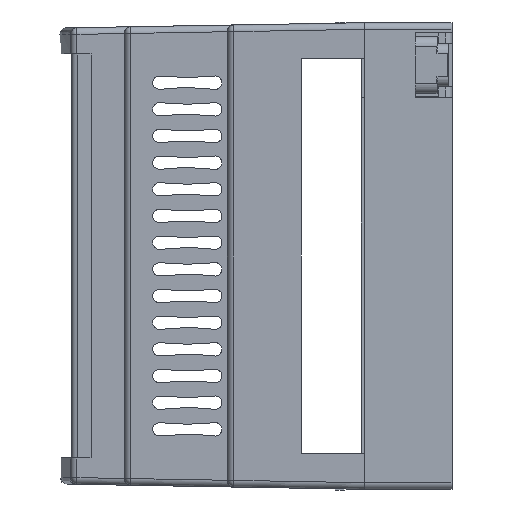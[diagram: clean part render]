
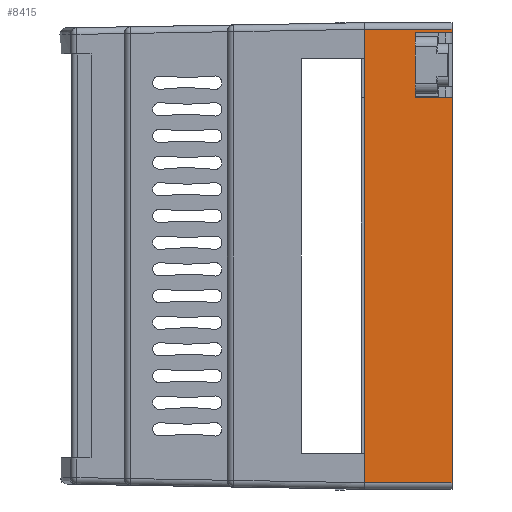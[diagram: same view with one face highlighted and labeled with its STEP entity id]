
A CAD part, left-side view. The second image highlights one B-rep face of the part: STEP entity #8415.
In plain terms, the highlighted planar face has unit normal (-1, 0, 0).
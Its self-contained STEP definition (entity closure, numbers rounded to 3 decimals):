
#989 = DIRECTION ( 'NONE',  ( 0., 0., 1. ) ) ;
#1019 = PLANE ( 'NONE',  #4628 ) ;
#1086 = LINE ( 'NONE', #10813, #18018 ) ;
#1351 = EDGE_CURVE ( 'NONE', #8377, #6896, #14726, .T. ) ;
#1622 = DIRECTION ( 'NONE',  ( 0., 0., 1. ) ) ;
#3147 = CARTESIAN_POINT ( 'NONE',  ( -45.3, -13.1, 34. ) ) ;
#3188 = EDGE_CURVE ( 'NONE', #9667, #3421, #1086, .T. ) ;
#3421 = VERTEX_POINT ( 'NONE', #13905 ) ;
#3485 = ORIENTED_EDGE ( 'NONE', *, *, #3995, .T. ) ;
#3652 = ORIENTED_EDGE ( 'NONE', *, *, #9882, .T. ) ;
#3995 = EDGE_CURVE ( 'NONE', #15254, #18634, #4891, .T. ) ;
#4030 = ORIENTED_EDGE ( 'NONE', *, *, #5368, .F. ) ;
#4035 = VECTOR ( 'NONE', #24883, 1000. ) ;
#4440 = ORIENTED_EDGE ( 'NONE', *, *, #3188, .F. ) ;
#4628 = AXIS2_PLACEMENT_3D ( 'NONE', #14830, #12828, #20839 ) ;
#4891 = LINE ( 'NONE', #7148, #15073 ) ;
#4895 = DIRECTION ( 'NONE',  ( 0., 0., 1. ) ) ;
#5368 = EDGE_CURVE ( 'NONE', #13155, #18634, #19535, .T. ) ;
#5373 = CARTESIAN_POINT ( 'NONE',  ( -45.3, -7.6, 23.75 ) ) ;
#5443 = VECTOR ( 'NONE', #9041, 1000. ) ;
#6896 = VERTEX_POINT ( 'NONE', #22878 ) ;
#7148 = CARTESIAN_POINT ( 'NONE',  ( -45.3, -13.1, 35. ) ) ;
#7211 = LINE ( 'NONE', #10746, #16048 ) ;
#7927 = EDGE_CURVE ( 'NONE', #13155, #3421, #9786, .T. ) ;
#8377 = VERTEX_POINT ( 'NONE', #23114 ) ;
#8415 = ADVANCED_FACE ( 'NONE', ( #12704 ), #1019, .T. ) ;
#9041 = DIRECTION ( 'NONE',  ( 0., -1., 0. ) ) ;
#9667 = VERTEX_POINT ( 'NONE', #23213 ) ;
#9786 = LINE ( 'NONE', #25856, #10699 ) ;
#9882 = EDGE_CURVE ( 'NONE', #11336, #15254, #7211, .T. ) ;
#9919 = ORIENTED_EDGE ( 'NONE', *, *, #1351, .T. ) ;
#10699 = VECTOR ( 'NONE', #1622, 1000. ) ;
#10746 = CARTESIAN_POINT ( 'NONE',  ( -45.3, -13.1, -34. ) ) ;
#10813 = CARTESIAN_POINT ( 'NONE',  ( -45.3, -13.1, 33.5 ) ) ;
#10821 = CARTESIAN_POINT ( 'NONE',  ( -45.3, 0., 35. ) ) ;
#10959 = LINE ( 'NONE', #10821, #19289 ) ;
#11084 = DIRECTION ( 'NONE',  ( 0., 1., 0. ) ) ;
#11336 = VERTEX_POINT ( 'NONE', #14909 ) ;
#12704 = FACE_OUTER_BOUND ( 'NONE', #20163, .T. ) ;
#12828 = DIRECTION ( 'NONE',  ( -1., 0., 0. ) ) ;
#13155 = VERTEX_POINT ( 'NONE', #5373 ) ;
#13905 = CARTESIAN_POINT ( 'NONE',  ( -45.3, -7.6, 33.5 ) ) ;
#14726 = LINE ( 'NONE', #3147, #4035 ) ;
#14830 = CARTESIAN_POINT ( 'NONE',  ( -45.3, -13.1, 35. ) ) ;
#14909 = CARTESIAN_POINT ( 'NONE',  ( -45.3, 0., -34. ) ) ;
#15073 = VECTOR ( 'NONE', #15172, 1000. ) ;
#15172 = DIRECTION ( 'NONE',  ( 0., 0., 1. ) ) ;
#15254 = VERTEX_POINT ( 'NONE', #20143 ) ;
#15328 = EDGE_CURVE ( 'NONE', #11336, #6896, #10959, .T. ) ;
#16048 = VECTOR ( 'NONE', #19011, 1000. ) ;
#18018 = VECTOR ( 'NONE', #11084, 1000. ) ;
#18634 = VERTEX_POINT ( 'NONE', #19561 ) ;
#19011 = DIRECTION ( 'NONE',  ( 0., -1., 0. ) ) ;
#19289 = VECTOR ( 'NONE', #4895, 1000. ) ;
#19349 = ORIENTED_EDGE ( 'NONE', *, *, #7927, .T. ) ;
#19535 = LINE ( 'NONE', #21517, #5443 ) ;
#19561 = CARTESIAN_POINT ( 'NONE',  ( -45.3, -13.1, 23.75 ) ) ;
#20143 = CARTESIAN_POINT ( 'NONE',  ( -45.3, -13.1, -34. ) ) ;
#20163 = EDGE_LOOP ( 'NONE', ( #4030, #19349, #4440, #24744, #9919, #22564, #3652, #3485 ) ) ;
#20839 = DIRECTION ( 'NONE',  ( 0., 0., 1. ) ) ;
#21093 = CARTESIAN_POINT ( 'NONE',  ( -45.3, -13.1, 35. ) ) ;
#21517 = CARTESIAN_POINT ( 'NONE',  ( -45.3, -13.1, 23.75 ) ) ;
#21867 = VECTOR ( 'NONE', #989, 1000. ) ;
#22564 = ORIENTED_EDGE ( 'NONE', *, *, #15328, .F. ) ;
#22878 = CARTESIAN_POINT ( 'NONE',  ( -45.3, 0., 34. ) ) ;
#23114 = CARTESIAN_POINT ( 'NONE',  ( -45.3, -13.1, 34. ) ) ;
#23213 = CARTESIAN_POINT ( 'NONE',  ( -45.3, -13.1, 33.5 ) ) ;
#23476 = LINE ( 'NONE', #21093, #21867 ) ;
#24744 = ORIENTED_EDGE ( 'NONE', *, *, #25567, .T. ) ;
#24883 = DIRECTION ( 'NONE',  ( 0., 1., 0. ) ) ;
#25567 = EDGE_CURVE ( 'NONE', #9667, #8377, #23476, .T. ) ;
#25856 = CARTESIAN_POINT ( 'NONE',  ( -45.3, -7.6, 35. ) ) ;
